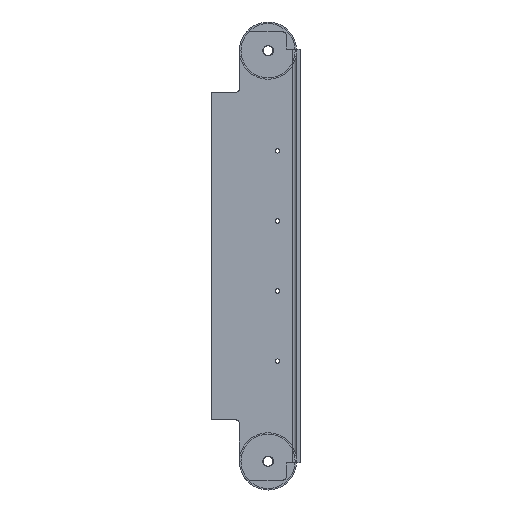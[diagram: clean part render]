
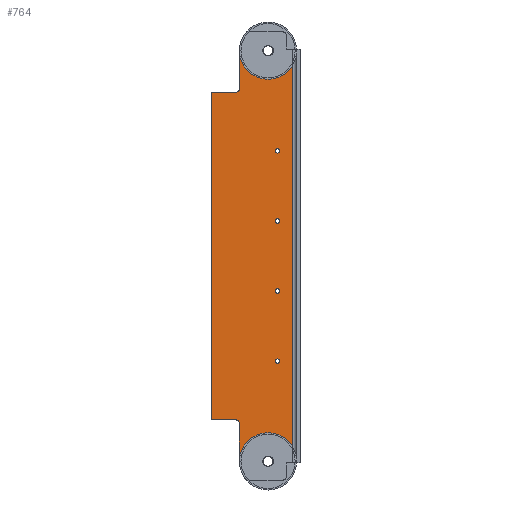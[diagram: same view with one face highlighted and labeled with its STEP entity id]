
A CAD part, front view. The second image highlights one B-rep face of the part: STEP entity #764.
In plain terms, the highlighted planar face has unit normal (0, -1, 0).
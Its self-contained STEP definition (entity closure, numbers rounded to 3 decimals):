
#56=FACE_BOUND('',#171,.T.);
#57=FACE_BOUND('',#172,.T.);
#58=FACE_BOUND('',#173,.T.);
#59=FACE_BOUND('',#174,.T.);
#60=FACE_BOUND('',#175,.T.);
#61=FACE_BOUND('',#176,.T.);
#82=PLANE('',#920);
#118=FACE_OUTER_BOUND('',#170,.T.);
#170=EDGE_LOOP('',(#654,#655,#656,#657,#658,#659,#660,#661,#662,#663,#664,
#665,#666,#667,#668,#669,#670,#671));
#171=EDGE_LOOP('',(#672));
#172=EDGE_LOOP('',(#673));
#173=EDGE_LOOP('',(#674));
#174=EDGE_LOOP('',(#675));
#175=EDGE_LOOP('',(#676));
#176=EDGE_LOOP('',(#677));
#207=LINE('',#1263,#271);
#210=LINE('',#1269,#274);
#221=LINE('',#1312,#285);
#224=LINE('',#1317,#288);
#225=LINE('',#1321,#289);
#229=LINE('',#1330,#293);
#232=LINE('',#1339,#296);
#236=LINE('',#1348,#300);
#239=LINE('',#1356,#303);
#241=LINE('',#1360,#305);
#242=LINE('',#1362,#306);
#243=LINE('',#1365,#307);
#271=VECTOR('',#1040,10.);
#274=VECTOR('',#1045,10.);
#285=VECTOR('',#1080,10.);
#288=VECTOR('',#1085,10.);
#289=VECTOR('',#1088,10.);
#293=VECTOR('',#1098,10.);
#296=VECTOR('',#1107,10.);
#300=VECTOR('',#1117,10.);
#303=VECTOR('',#1126,10.);
#305=VECTOR('',#1132,10.);
#306=VECTOR('',#1133,10.);
#307=VECTOR('',#1136,10.);
#323=CIRCLE('',#876,6.5);
#325=CIRCLE('',#879,6.5);
#340=CIRCLE('',#909,5.);
#341=CIRCLE('',#912,38.);
#342=CIRCLE('',#915,5.);
#343=CIRCLE('',#918,38.);
#344=CIRCLE('',#921,6.);
#345=CIRCLE('',#922,6.);
#346=CIRCLE('',#923,3.);
#347=CIRCLE('',#924,3.);
#348=CIRCLE('',#925,3.);
#349=CIRCLE('',#926,3.);
#359=VERTEX_POINT('',#1214);
#361=VERTEX_POINT('',#1220);
#371=VERTEX_POINT('',#1248);
#372=VERTEX_POINT('',#1252);
#375=VERTEX_POINT('',#1267);
#395=VERTEX_POINT('',#1311);
#396=VERTEX_POINT('',#1315);
#397=VERTEX_POINT('',#1319);
#398=VERTEX_POINT('',#1320);
#399=VERTEX_POINT('',#1325);
#400=VERTEX_POINT('',#1329);
#401=VERTEX_POINT('',#1333);
#402=VERTEX_POINT('',#1337);
#403=VERTEX_POINT('',#1338);
#404=VERTEX_POINT('',#1343);
#405=VERTEX_POINT('',#1347);
#406=VERTEX_POINT('',#1351);
#407=VERTEX_POINT('',#1355);
#408=VERTEX_POINT('',#1361);
#409=VERTEX_POINT('',#1363);
#410=VERTEX_POINT('',#1366);
#411=VERTEX_POINT('',#1368);
#412=VERTEX_POINT('',#1370);
#413=VERTEX_POINT('',#1372);
#428=EDGE_CURVE('',#359,#359,#323,.T.);
#431=EDGE_CURVE('',#361,#361,#325,.T.);
#451=EDGE_CURVE('',#371,#372,#207,.T.);
#454=EDGE_CURVE('',#372,#375,#210,.T.);
#475=EDGE_CURVE('',#395,#371,#221,.T.);
#478=EDGE_CURVE('',#396,#375,#224,.T.);
#479=EDGE_CURVE('',#397,#398,#225,.T.);
#482=EDGE_CURVE('',#398,#399,#340,.T.);
#484=EDGE_CURVE('',#399,#400,#229,.T.);
#486=EDGE_CURVE('',#400,#401,#341,.T.);
#488=EDGE_CURVE('',#402,#403,#232,.T.);
#491=EDGE_CURVE('',#403,#404,#342,.T.);
#493=EDGE_CURVE('',#404,#405,#236,.T.);
#495=EDGE_CURVE('',#406,#402,#343,.T.);
#497=EDGE_CURVE('',#406,#407,#239,.T.);
#499=EDGE_CURVE('',#407,#396,#344,.T.);
#500=EDGE_CURVE('',#397,#405,#241,.T.);
#501=EDGE_CURVE('',#408,#401,#242,.T.);
#502=EDGE_CURVE('',#409,#408,#345,.T.);
#503=EDGE_CURVE('',#395,#409,#243,.T.);
#504=EDGE_CURVE('',#410,#410,#346,.T.);
#505=EDGE_CURVE('',#411,#411,#347,.T.);
#506=EDGE_CURVE('',#412,#412,#348,.T.);
#507=EDGE_CURVE('',#413,#413,#349,.T.);
#654=ORIENTED_EDGE('',*,*,#451,.T.);
#655=ORIENTED_EDGE('',*,*,#454,.T.);
#656=ORIENTED_EDGE('',*,*,#478,.F.);
#657=ORIENTED_EDGE('',*,*,#499,.F.);
#658=ORIENTED_EDGE('',*,*,#497,.F.);
#659=ORIENTED_EDGE('',*,*,#495,.T.);
#660=ORIENTED_EDGE('',*,*,#488,.T.);
#661=ORIENTED_EDGE('',*,*,#491,.T.);
#662=ORIENTED_EDGE('',*,*,#493,.T.);
#663=ORIENTED_EDGE('',*,*,#500,.F.);
#664=ORIENTED_EDGE('',*,*,#479,.T.);
#665=ORIENTED_EDGE('',*,*,#482,.T.);
#666=ORIENTED_EDGE('',*,*,#484,.T.);
#667=ORIENTED_EDGE('',*,*,#486,.T.);
#668=ORIENTED_EDGE('',*,*,#501,.F.);
#669=ORIENTED_EDGE('',*,*,#502,.F.);
#670=ORIENTED_EDGE('',*,*,#503,.F.);
#671=ORIENTED_EDGE('',*,*,#475,.T.);
#672=ORIENTED_EDGE('',*,*,#428,.T.);
#673=ORIENTED_EDGE('',*,*,#431,.T.);
#674=ORIENTED_EDGE('',*,*,#504,.T.);
#675=ORIENTED_EDGE('',*,*,#505,.T.);
#676=ORIENTED_EDGE('',*,*,#506,.T.);
#677=ORIENTED_EDGE('',*,*,#507,.T.);
#764=ADVANCED_FACE('',(#118,#56,#57,#58,#59,#60,#61),#82,.F.);
#876=AXIS2_PLACEMENT_3D('',#1216,#990,#991);
#879=AXIS2_PLACEMENT_3D('',#1222,#997,#998);
#909=AXIS2_PLACEMENT_3D('',#1326,#1093,#1094);
#912=AXIS2_PLACEMENT_3D('',#1334,#1102,#1103);
#915=AXIS2_PLACEMENT_3D('',#1344,#1112,#1113);
#918=AXIS2_PLACEMENT_3D('',#1352,#1121,#1122);
#920=AXIS2_PLACEMENT_3D('',#1358,#1128,#1129);
#921=AXIS2_PLACEMENT_3D('',#1359,#1130,#1131);
#922=AXIS2_PLACEMENT_3D('',#1364,#1134,#1135);
#923=AXIS2_PLACEMENT_3D('',#1367,#1137,#1138);
#924=AXIS2_PLACEMENT_3D('',#1369,#1139,#1140);
#925=AXIS2_PLACEMENT_3D('',#1371,#1141,#1142);
#926=AXIS2_PLACEMENT_3D('',#1373,#1143,#1144);
#990=DIRECTION('center_axis',(0.,1.,0.));
#991=DIRECTION('ref_axis',(1.,0.,0.));
#997=DIRECTION('center_axis',(0.,1.,0.));
#998=DIRECTION('ref_axis',(1.,0.,0.));
#1040=DIRECTION('',(0.,0.,1.));
#1045=DIRECTION('',(-1.,0.,0.));
#1080=DIRECTION('',(1.,0.,0.));
#1085=DIRECTION('',(0.,0.,-1.));
#1088=DIRECTION('',(1.,0.,0.));
#1093=DIRECTION('center_axis',(0.,1.,0.));
#1094=DIRECTION('ref_axis',(0.,0.,1.));
#1098=DIRECTION('',(0.,0.,-1.));
#1102=DIRECTION('center_axis',(0.,-1.,0.));
#1103=DIRECTION('ref_axis',(-1.,0.,0.));
#1107=DIRECTION('',(0.,0.,-1.));
#1112=DIRECTION('center_axis',(0.,1.,0.));
#1113=DIRECTION('ref_axis',(1.,0.,0.));
#1117=DIRECTION('',(-1.,0.,0.));
#1121=DIRECTION('center_axis',(0.,-1.,0.));
#1122=DIRECTION('ref_axis',(-1.,0.,0.));
#1126=DIRECTION('',(1.,0.,0.));
#1128=DIRECTION('center_axis',(0.,1.,0.));
#1129=DIRECTION('ref_axis',(0.,0.,1.));
#1130=DIRECTION('center_axis',(0.,1.,0.));
#1131=DIRECTION('ref_axis',(0.,0.,1.));
#1132=DIRECTION('',(0.,0.,1.));
#1133=DIRECTION('',(-1.,0.,0.));
#1134=DIRECTION('center_axis',(0.,1.,0.));
#1135=DIRECTION('ref_axis',(1.,0.,0.));
#1136=DIRECTION('',(0.,0.,-1.));
#1137=DIRECTION('center_axis',(0.,1.,0.));
#1138=DIRECTION('ref_axis',(1.,0.,0.));
#1139=DIRECTION('center_axis',(0.,1.,0.));
#1140=DIRECTION('ref_axis',(1.,0.,0.));
#1141=DIRECTION('center_axis',(0.,1.,0.));
#1142=DIRECTION('ref_axis',(1.,0.,0.));
#1143=DIRECTION('center_axis',(0.,1.,0.));
#1144=DIRECTION('ref_axis',(1.,0.,0.));
#1214=CARTESIAN_POINT('',(-31.5,0.,-564.));
#1216=CARTESIAN_POINT('Origin',(-25.,0.,-564.));
#1220=CARTESIAN_POINT('',(-31.5,0.,-19.));
#1222=CARTESIAN_POINT('Origin',(-25.,0.,-19.));
#1248=CARTESIAN_POINT('',(8.,0.,-566.));
#1252=CARTESIAN_POINT('',(8.,0.,-17.));
#1263=CARTESIAN_POINT('',(8.,0.,-154.25));
#1267=CARTESIAN_POINT('',(0.,0.,-17.));
#1269=CARTESIAN_POINT('',(0.,0.,-17.));
#1311=CARTESIAN_POINT('',(0.,0.,-566.));
#1312=CARTESIAN_POINT('',(13.,0.,-566.));
#1315=CARTESIAN_POINT('',(0.,0.,0.));
#1317=CARTESIAN_POINT('',(0.,0.,0.));
#1319=CARTESIAN_POINT('',(-100.,0.,-509.));
#1320=CARTESIAN_POINT('',(-68.,0.,-509.));
#1321=CARTESIAN_POINT('',(-59.,0.,-509.));
#1325=CARTESIAN_POINT('',(-63.,0.,-514.));
#1326=CARTESIAN_POINT('Origin',(-68.,0.,-514.));
#1329=CARTESIAN_POINT('',(-63.,0.,-564.));
#1330=CARTESIAN_POINT('',(-63.,0.,-427.75));
#1333=CARTESIAN_POINT('',(-53.618,0.,-589.));
#1334=CARTESIAN_POINT('Origin',(-25.,0.,-564.));
#1337=CARTESIAN_POINT('',(-62.853,0.,-22.338));
#1338=CARTESIAN_POINT('',(-62.853,0.,-69.));
#1339=CARTESIAN_POINT('',(-62.853,0.,-180.25));
#1343=CARTESIAN_POINT('',(-67.853,0.,-74.));
#1344=CARTESIAN_POINT('Origin',(-67.853,0.,-69.));
#1347=CARTESIAN_POINT('',(-100.,0.,-74.));
#1348=CARTESIAN_POINT('',(-75.,0.,-74.));
#1351=CARTESIAN_POINT('',(-53.618,0.,6.));
#1352=CARTESIAN_POINT('Origin',(-25.,0.,-19.));
#1355=CARTESIAN_POINT('',(-6.,0.,6.));
#1356=CARTESIAN_POINT('',(-62.,0.,6.));
#1358=CARTESIAN_POINT('Origin',(-50.,0.,-291.5));
#1359=CARTESIAN_POINT('Origin',(-6.,0.,0.));
#1360=CARTESIAN_POINT('',(-100.,0.,-551.));
#1361=CARTESIAN_POINT('',(-6.,0.,-589.));
#1362=CARTESIAN_POINT('',(-6.,0.,-589.));
#1363=CARTESIAN_POINT('',(0.,0.,-583.));
#1364=CARTESIAN_POINT('Origin',(-6.,0.,-583.));
#1365=CARTESIAN_POINT('',(0.,0.,0.));
#1366=CARTESIAN_POINT('',(-15.5,0.,-338.));
#1367=CARTESIAN_POINT('Origin',(-12.5,0.,-338.));
#1368=CARTESIAN_POINT('',(-15.5,0.,-245.));
#1369=CARTESIAN_POINT('Origin',(-12.5,0.,-245.));
#1370=CARTESIAN_POINT('',(-15.5,0.,-431.));
#1371=CARTESIAN_POINT('Origin',(-12.5,0.,-431.));
#1372=CARTESIAN_POINT('',(-15.5,0.,-152.));
#1373=CARTESIAN_POINT('Origin',(-12.5,0.,-152.));
